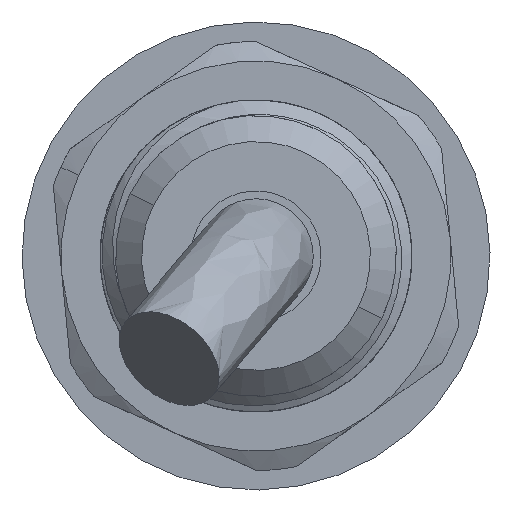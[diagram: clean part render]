
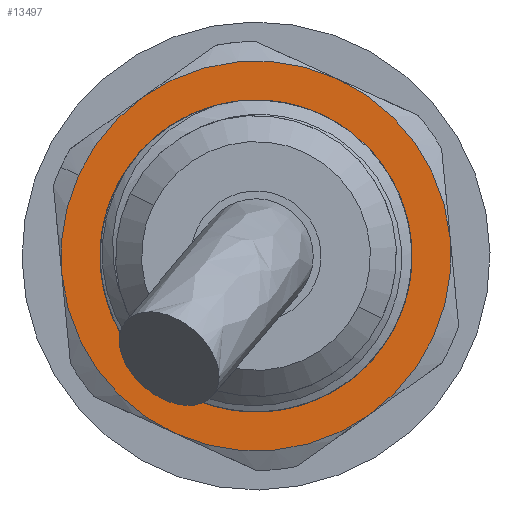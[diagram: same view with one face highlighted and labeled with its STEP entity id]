
A CAD part, front view. The second image highlights one B-rep face of the part: STEP entity #13497.
In plain terms, the highlighted planar face has unit normal (0, -1, 0).
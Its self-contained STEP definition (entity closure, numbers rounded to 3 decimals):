
#185 = AXIS2_PLACEMENT_3D ( 'NONE', #3927, #2854, #13275 ) ;
#751 = CIRCLE ( 'NONE', #10841, 7.5 ) ;
#943 = CARTESIAN_POINT ( 'NONE',  ( -2.963, 14.843, 26.008 ) ) ;
#966 = CARTESIAN_POINT ( 'NONE',  ( -6.681, 14.843, 35.941 ) ) ;
#984 = CIRCLE ( 'NONE', #3145, 7.5 ) ;
#993 = DIRECTION ( 'NONE',  ( 0., -1., 0. ) ) ;
#1145 = CARTESIAN_POINT ( 'NONE',  ( -4.213, 14.843, 38.938 ) ) ;
#1221 = AXIS2_PLACEMENT_3D ( 'NONE', #1419, #10639, #2465 ) ;
#1331 = CIRCLE ( 'NONE', #10614, 5.5 ) ;
#1398 = DIRECTION ( 'NONE',  ( 0., -1., 0. ) ) ;
#1419 = CARTESIAN_POINT ( 'NONE',  ( 0.144, 14.843, 32.834 ) ) ;
#1454 = VERTEX_POINT ( 'NONE', #1145 ) ;
#1563 = DIRECTION ( 'NONE',  ( 0., -1., 0. ) ) ;
#1979 = EDGE_CURVE ( 'NONE', #1454, #4323, #11023, .T. ) ;
#2094 = CIRCLE ( 'NONE', #4848, 7.5 ) ;
#2190 = ORIENTED_EDGE ( 'NONE', *, *, #1979, .T. ) ;
#2434 = EDGE_CURVE ( 'NONE', #7915, #3156, #9052, .T. ) ;
#2465 = DIRECTION ( 'NONE',  ( -0.91, 0., 0.414 ) ) ;
#2583 = CARTESIAN_POINT ( 'NONE',  ( -7.321, 14.843, 32.112 ) ) ;
#2854 = DIRECTION ( 'NONE',  ( 0., -1., 0. ) ) ;
#3145 = AXIS2_PLACEMENT_3D ( 'NONE', #3673, #1563, #13066 ) ;
#3156 = VERTEX_POINT ( 'NONE', #6447 ) ;
#3190 = CIRCLE ( 'NONE', #185, 7.5 ) ;
#3236 = VERTEX_POINT ( 'NONE', #4673 ) ;
#3432 = DIRECTION ( 'NONE',  ( -0.91, 0., 0.414 ) ) ;
#3661 = ORIENTED_EDGE ( 'NONE', *, *, #10176, .F. ) ;
#3673 = CARTESIAN_POINT ( 'NONE',  ( 0.144, 14.843, 32.834 ) ) ;
#3698 = CARTESIAN_POINT ( 'NONE',  ( 0.144, 14.843, 32.834 ) ) ;
#3752 = EDGE_CURVE ( 'NONE', #3156, #3236, #13415, .T. ) ;
#3820 = ORIENTED_EDGE ( 'NONE', *, *, #2434, .T. ) ;
#3927 = CARTESIAN_POINT ( 'NONE',  ( 0.144, 14.843, 32.834 ) ) ;
#4220 = DIRECTION ( 'NONE',  ( 0., -1., 0. ) ) ;
#4234 = CARTESIAN_POINT ( 'NONE',  ( -4.861, 14.843, 35.113 ) ) ;
#4323 = VERTEX_POINT ( 'NONE', #966 ) ;
#4391 = CARTESIAN_POINT ( 'NONE',  ( 0.144, 14.843, 32.834 ) ) ;
#4673 = CARTESIAN_POINT ( 'NONE',  ( 3.252, 14.843, 39.659 ) ) ;
#4848 = AXIS2_PLACEMENT_3D ( 'NONE', #4391, #10538, #3432 ) ;
#5067 = EDGE_CURVE ( 'NONE', #4323, #12132, #984, .T. ) ;
#5304 = EDGE_LOOP ( 'NONE', ( #2190, #8727, #7249, #7998, #3820, #6504, #10559 ) ) ;
#5363 = CIRCLE ( 'NONE', #12681, 5.5 ) ;
#5703 = AXIS2_PLACEMENT_3D ( 'NONE', #13452, #993, #6562 ) ;
#6266 = DIRECTION ( 'NONE',  ( -0.91, 0., 0.414 ) ) ;
#6447 = CARTESIAN_POINT ( 'NONE',  ( 7.61, 14.843, 33.555 ) ) ;
#6504 = ORIENTED_EDGE ( 'NONE', *, *, #3752, .T. ) ;
#6562 = DIRECTION ( 'NONE',  ( -0.91, 0., 0.414 ) ) ;
#6730 = AXIS2_PLACEMENT_3D ( 'NONE', #12451, #4220, #6266 ) ;
#7223 = AXIS2_PLACEMENT_3D ( 'NONE', #3698, #7812, #7766 ) ;
#7249 = ORIENTED_EDGE ( 'NONE', *, *, #12608, .T. ) ;
#7297 = VERTEX_POINT ( 'NONE', #11511 ) ;
#7649 = CARTESIAN_POINT ( 'NONE',  ( 0.144, 14.843, 32.834 ) ) ;
#7766 = DIRECTION ( 'NONE',  ( -0.91, 0., 0.414 ) ) ;
#7812 = DIRECTION ( 'NONE',  ( 0., -1., 0. ) ) ;
#7915 = VERTEX_POINT ( 'NONE', #9818 ) ;
#7998 = ORIENTED_EDGE ( 'NONE', *, *, #12378, .T. ) ;
#8268 = EDGE_LOOP ( 'NONE', ( #9703, #3661 ) ) ;
#8351 = FACE_BOUND ( 'NONE', #8268, .T. ) ;
#8660 = CARTESIAN_POINT ( 'NONE',  ( 0.144, 14.843, 32.834 ) ) ;
#8665 = DIRECTION ( 'NONE',  ( -0.91, 0., 0.414 ) ) ;
#8686 = DIRECTION ( 'NONE',  ( -0.91, 0., 0.414 ) ) ;
#8727 = ORIENTED_EDGE ( 'NONE', *, *, #5067, .T. ) ;
#8852 = DIRECTION ( 'NONE',  ( 0., -1., 0. ) ) ;
#9052 = CIRCLE ( 'NONE', #7223, 7.5 ) ;
#9562 = EDGE_CURVE ( 'NONE', #13140, #7297, #1331, .T. ) ;
#9658 = DIRECTION ( 'NONE',  ( -0.91, 0., 0.414 ) ) ;
#9703 = ORIENTED_EDGE ( 'NONE', *, *, #9562, .F. ) ;
#9818 = CARTESIAN_POINT ( 'NONE',  ( 4.502, 14.843, 26.729 ) ) ;
#10176 = EDGE_CURVE ( 'NONE', #7297, #13140, #5363, .T. ) ;
#10538 = DIRECTION ( 'NONE',  ( 0., -1., 0. ) ) ;
#10559 = ORIENTED_EDGE ( 'NONE', *, *, #10834, .T. ) ;
#10614 = AXIS2_PLACEMENT_3D ( 'NONE', #8660, #10799, #9658 ) ;
#10639 = DIRECTION ( 'NONE',  ( 0., -1., 0. ) ) ;
#10799 = DIRECTION ( 'NONE',  ( 0., -1., 0. ) ) ;
#10834 = EDGE_CURVE ( 'NONE', #3236, #1454, #2094, .T. ) ;
#10841 = AXIS2_PLACEMENT_3D ( 'NONE', #12865, #1398, #8665 ) ;
#11023 = CIRCLE ( 'NONE', #5703, 7.5 ) ;
#11511 = CARTESIAN_POINT ( 'NONE',  ( 5.15, 14.843, 30.555 ) ) ;
#12132 = VERTEX_POINT ( 'NONE', #2583 ) ;
#12334 = VERTEX_POINT ( 'NONE', #943 ) ;
#12356 = PLANE ( 'NONE',  #6730 ) ;
#12378 = EDGE_CURVE ( 'NONE', #12334, #7915, #3190, .T. ) ;
#12406 = FACE_OUTER_BOUND ( 'NONE', #5304, .T. ) ;
#12451 = CARTESIAN_POINT ( 'NONE',  ( 0.144, 14.843, 32.834 ) ) ;
#12608 = EDGE_CURVE ( 'NONE', #12132, #12334, #751, .T. ) ;
#12681 = AXIS2_PLACEMENT_3D ( 'NONE', #7649, #8852, #8686 ) ;
#12865 = CARTESIAN_POINT ( 'NONE',  ( 0.144, 14.843, 32.834 ) ) ;
#13066 = DIRECTION ( 'NONE',  ( -0.91, 0., 0.414 ) ) ;
#13140 = VERTEX_POINT ( 'NONE', #4234 ) ;
#13275 = DIRECTION ( 'NONE',  ( -0.91, 0., 0.414 ) ) ;
#13415 = CIRCLE ( 'NONE', #1221, 7.5 ) ;
#13452 = CARTESIAN_POINT ( 'NONE',  ( 0.144, 14.843, 32.834 ) ) ;
#13497 = ADVANCED_FACE ( 'NONE', ( #8351, #12406 ), #12356, .T. ) ;
